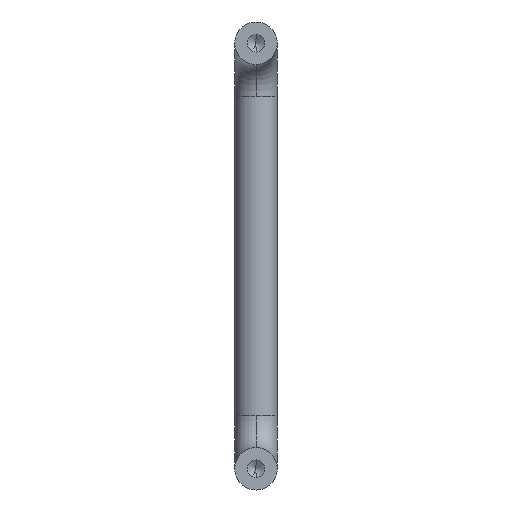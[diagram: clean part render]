
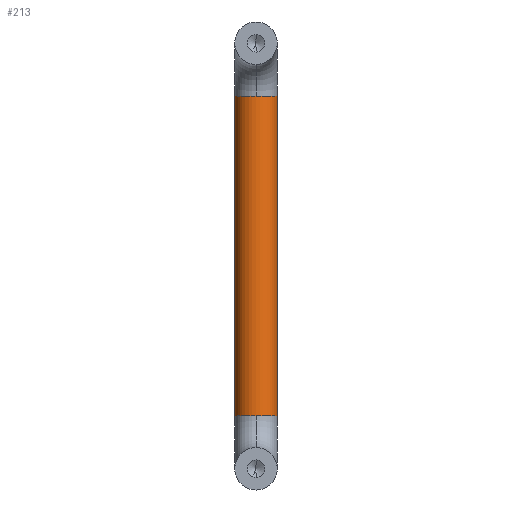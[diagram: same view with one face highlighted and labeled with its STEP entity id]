
A CAD part, front view. The second image highlights one B-rep face of the part: STEP entity #213.
In plain terms, the highlighted cylindrical face has radius 4 mm (diameter 8 mm), a partial arc.
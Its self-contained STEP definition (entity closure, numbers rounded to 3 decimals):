
#2 = EDGE_CURVE ( 'NONE', #505, #309, #76, .T. ) ;
#7 = ORIENTED_EDGE ( 'NONE', *, *, #2, .F. ) ;
#11 = CARTESIAN_POINT ( 'NONE',  ( -4., 36., -70. ) ) ;
#17 = DIRECTION ( 'NONE',  ( 0., 0., -1. ) ) ;
#24 = CARTESIAN_POINT ( 'NONE',  ( 4., 36., -10. ) ) ;
#34 = FACE_OUTER_BOUND ( 'NONE', #457, .T. ) ;
#45 = EDGE_CURVE ( 'NONE', #363, #229, #304, .T. ) ;
#51 = CARTESIAN_POINT ( 'NONE',  ( 4., 36., -70. ) ) ;
#68 = VECTOR ( 'NONE', #17, 1000. ) ;
#76 = CIRCLE ( 'NONE', #284, 4. ) ;
#77 = DIRECTION ( 'NONE',  ( 0., 0., -1. ) ) ;
#91 = EDGE_CURVE ( 'NONE', #363, #505, #266, .T. ) ;
#108 = DIRECTION ( 'NONE',  ( 0., 1., 0. ) ) ;
#147 = ORIENTED_EDGE ( 'NONE', *, *, #504, .T. ) ;
#148 = CARTESIAN_POINT ( 'NONE',  ( 0., 32., -10. ) ) ;
#152 = EDGE_CURVE ( 'NONE', #309, #502, #596, .T. ) ;
#176 = ORIENTED_EDGE ( 'NONE', *, *, #152, .F. ) ;
#179 = CARTESIAN_POINT ( 'NONE',  ( 4., 36., -10. ) ) ;
#188 = CARTESIAN_POINT ( 'NONE',  ( 0., 36., -70. ) ) ;
#190 = CYLINDRICAL_SURFACE ( 'NONE', #560, 4. ) ;
#200 = DIRECTION ( 'NONE',  ( 0., 1., 0. ) ) ;
#213 = ADVANCED_FACE ( 'NONE', ( #34 ), #190, .T. ) ;
#229 = VERTEX_POINT ( 'NONE', #148 ) ;
#244 = CARTESIAN_POINT ( 'NONE',  ( -4., 36., -10. ) ) ;
#266 = LINE ( 'NONE', #24, #68 ) ;
#271 = ORIENTED_EDGE ( 'NONE', *, *, #357, .T. ) ;
#283 = AXIS2_PLACEMENT_3D ( 'NONE', #529, #473, #108 ) ;
#284 = AXIS2_PLACEMENT_3D ( 'NONE', #188, #518, #200 ) ;
#287 = AXIS2_PLACEMENT_3D ( 'NONE', #587, #353, #535 ) ;
#292 = ORIENTED_EDGE ( 'NONE', *, *, #91, .F. ) ;
#304 = CIRCLE ( 'NONE', #283, 4. ) ;
#309 = VERTEX_POINT ( 'NONE', #470 ) ;
#325 = LINE ( 'NONE', #408, #445 ) ;
#336 = DIRECTION ( 'NONE',  ( 0., 1., 0. ) ) ;
#353 = DIRECTION ( 'NONE',  ( 0., 0., -1. ) ) ;
#357 = EDGE_CURVE ( 'NONE', #404, #502, #325, .T. ) ;
#363 = VERTEX_POINT ( 'NONE', #179 ) ;
#404 = VERTEX_POINT ( 'NONE', #244 ) ;
#408 = CARTESIAN_POINT ( 'NONE',  ( -4., 36., -10. ) ) ;
#445 = VECTOR ( 'NONE', #77, 1000. ) ;
#456 = AXIS2_PLACEMENT_3D ( 'NONE', #578, #524, #336 ) ;
#457 = EDGE_LOOP ( 'NONE', ( #292, #617, #147, #271, #176, #7 ) ) ;
#470 = CARTESIAN_POINT ( 'NONE',  ( 0., 32., -70. ) ) ;
#473 = DIRECTION ( 'NONE',  ( 0., 0., -1. ) ) ;
#502 = VERTEX_POINT ( 'NONE', #11 ) ;
#504 = EDGE_CURVE ( 'NONE', #229, #404, #544, .T. ) ;
#505 = VERTEX_POINT ( 'NONE', #51 ) ;
#508 = DIRECTION ( 'NONE',  ( 0., 0., -1. ) ) ;
#512 = CARTESIAN_POINT ( 'NONE',  ( 0., 36., -10. ) ) ;
#518 = DIRECTION ( 'NONE',  ( 0., 0., -1. ) ) ;
#524 = DIRECTION ( 'NONE',  ( 0., 0., -1. ) ) ;
#529 = CARTESIAN_POINT ( 'NONE',  ( 0., 36., -10. ) ) ;
#535 = DIRECTION ( 'NONE',  ( 0., 1., 0. ) ) ;
#544 = CIRCLE ( 'NONE', #456, 4. ) ;
#560 = AXIS2_PLACEMENT_3D ( 'NONE', #512, #508, #566 ) ;
#566 = DIRECTION ( 'NONE',  ( -1., 0., 0. ) ) ;
#578 = CARTESIAN_POINT ( 'NONE',  ( 0., 36., -10. ) ) ;
#587 = CARTESIAN_POINT ( 'NONE',  ( 0., 36., -70. ) ) ;
#596 = CIRCLE ( 'NONE', #287, 4. ) ;
#617 = ORIENTED_EDGE ( 'NONE', *, *, #45, .T. ) ;
